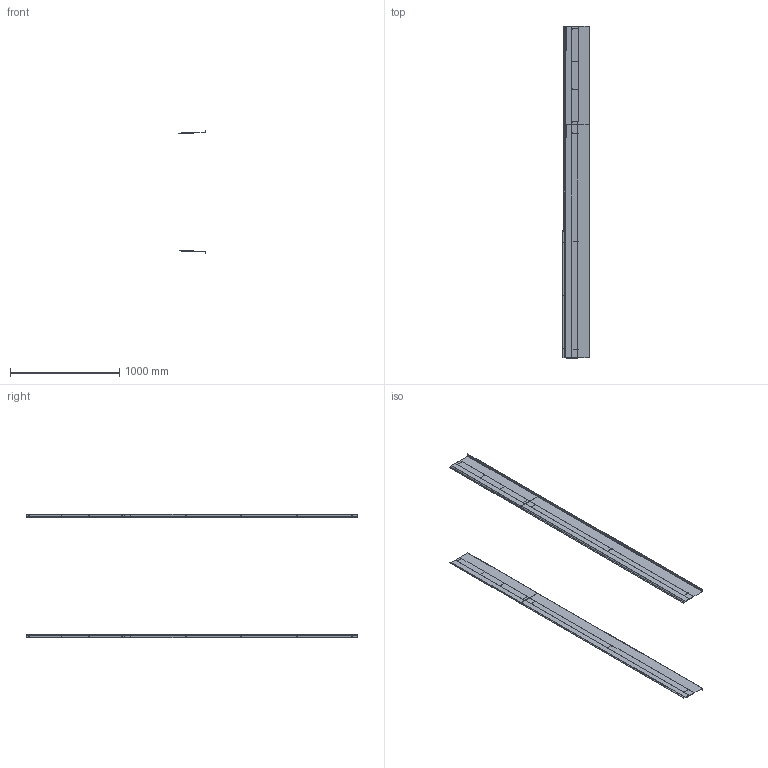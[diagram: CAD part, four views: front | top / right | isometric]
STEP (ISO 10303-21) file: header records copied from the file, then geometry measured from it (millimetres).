
FILE_DESCRIPTION (( 'STEP AP214' ), '1' );
FILE_NAME ('QSTX-8.STEP', '2016-07-28T14:50:14', ( 'BMC' ), ( 'Bard Manufacturing Co., Inc.' ), 'SwSTEP 2.0', 'SolidWorks 2016', '' );
FILE_SCHEMA (( 'AUTOMOTIVE_DESIGN' ));
Length unit declared in the file: inch
Products named in the file (6): 134-254; 134-260; 134-255; QSTX-8; 134-263; 134-256
Assembly tree (8 placements, depth 2):
  QSTX-8
    134-260  x2
    134-263  x2
    134-254
    134-255
    134-256  x2
Bounding box: 245.31 x 3036.21 x 1132.45 mm (x, y, z)
Surface area: 3978138.3 mm2 (no closed solid volume)
Topology: 0 solids, 8 shells, 298 faces, 838 edges, 556 vertices
Faces by surface type: cylinder 182, plane 116
Entity records: 6784 total; most frequent: DIRECTION 1197, CARTESIAN_POINT 1115, ORIENTED_EDGE 1094, EDGE_CURVE 547, AXIS2_PLACEMENT_3D 444, VERTEX_POINT 362, LINE 309, VECTOR 309
